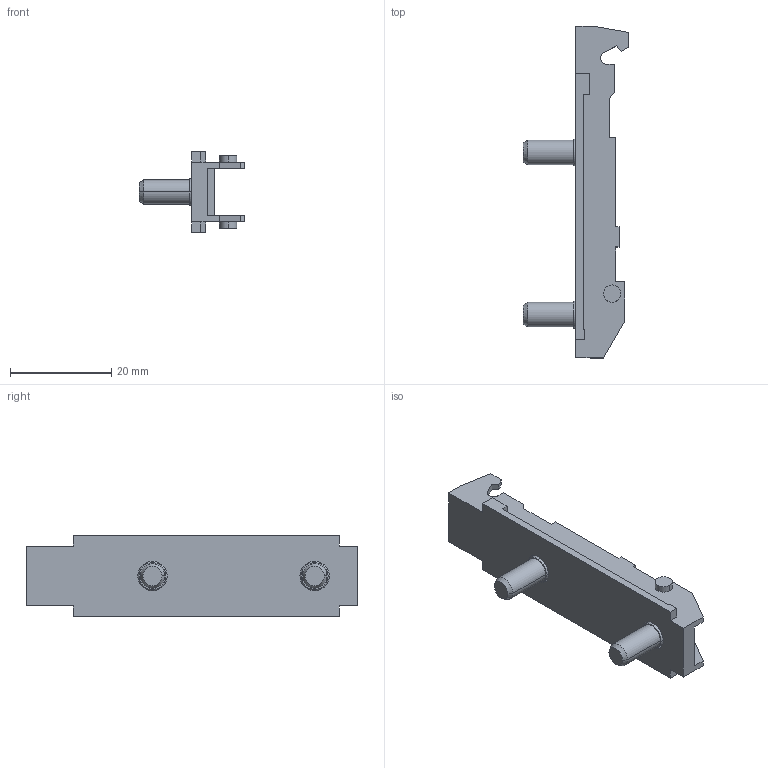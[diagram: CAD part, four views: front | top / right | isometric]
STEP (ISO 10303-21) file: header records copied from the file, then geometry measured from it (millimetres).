
FILE_DESCRIPTION (( 'STEP AP214' ), '1' );
FILE_NAME ('1D_Linearmontageplatte 20_32_Euroschraube vormontiert_H00.step', '2010-11-18T10:17:23', ( 'grass' ), ( '' ), 'SwSTEP 2.0', 'SolidWorks 2010', '' );
FILE_SCHEMA (( 'AUTOMOTIVE_DESIGN' ));
Length unit declared in the file: millimetre
Products named in the file (1): 1D_Linearmontageplatte 20_32_Euroschraube vormontiert_H00
Bounding box: 20.85 x 65.5 x 16 mm (x, y, z)
Volume: 4087.5 mm3; surface area: 4273.4 mm2
Topology: 1 solids, 1 shells, 102 faces, 264 edges, 172 vertices
Faces by surface type: plane 72, cylinder 22, cone 8
Entity records: 3114 total; most frequent: CARTESIAN_POINT 539, ORIENTED_EDGE 528, DIRECTION 518, EDGE_CURVE 264, LINE 216, VECTOR 216, VERTEX_POINT 172, AXIS2_PLACEMENT_3D 151
